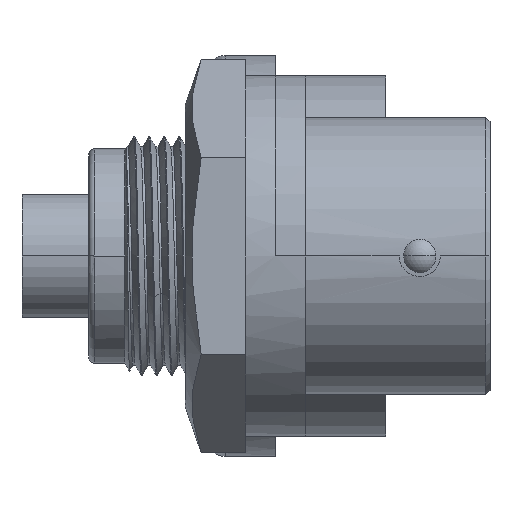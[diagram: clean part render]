
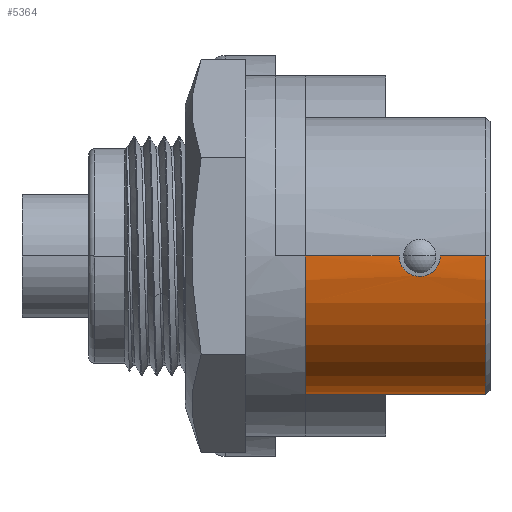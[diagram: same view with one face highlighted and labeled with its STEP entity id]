
A CAD part, front view. The second image highlights one B-rep face of the part: STEP entity #5364.
In plain terms, the highlighted cylindrical face has radius 6.9 mm (diameter 13.8 mm), a partial arc.
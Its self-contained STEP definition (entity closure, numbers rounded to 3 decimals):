
#1544=CARTESIAN_POINT('',(2.3,0.,0.));
#1545=DIRECTION('',(1.,0.,0.));
#1546=DIRECTION('',(0.,-1.,0.));
#1547=AXIS2_PLACEMENT_3D('',#1544,#1545,#1546);
#1549=DIRECTION('',(1.,0.,0.));
#1550=VECTOR('',#1549,7.4);
#1551=CARTESIAN_POINT('',(2.3,6.9,0.));
#1552=LINE('',#1551,#1550);
#1564=CARTESIAN_POINT('',(10.7,6.9,0.));
#1566=DIRECTION('',(1.,0.,0.));
#1567=VECTOR('',#1566,0.6);
#1568=CARTESIAN_POINT('',(10.7,6.9,0.));
#1569=LINE('',#1568,#1567);
#1570=DIRECTION('',(1.,0.,0.));
#1571=VECTOR('',#1570,2.275);
#1572=CARTESIAN_POINT('',(9.025,-6.9,0.));
#1573=LINE('',#1572,#1571);
#1574=CARTESIAN_POINT('',(10.7,6.9,0.));
#1575=CARTESIAN_POINT('',(10.7,6.9,
-0.06));
#1576=CARTESIAN_POINT('',(10.68,6.899,
-0.173));
#1577=CARTESIAN_POINT('',(10.59,6.893,
-0.329));
#1578=CARTESIAN_POINT('',(10.458,6.886,
-0.44));
#1579=CARTESIAN_POINT('',(10.29,6.882,
-0.503));
#1580=CARTESIAN_POINT('',(10.111,6.882,
-0.503));
#1581=CARTESIAN_POINT('',(9.945,6.886,
-0.442));
#1582=CARTESIAN_POINT('',(9.81,6.893,
-0.329));
#1583=CARTESIAN_POINT('',(9.721,6.898,
-0.174));
#1584=CARTESIAN_POINT('',(9.7,6.9,-0.061));
#1585=CARTESIAN_POINT('',(9.7,6.9,0.));
#1587=DIRECTION('',(1.,0.,0.));
#1588=VECTOR('',#1587,4.675);
#1589=CARTESIAN_POINT('',(2.3,-6.9,0.));
#1590=LINE('',#1589,#1588);
#1591=CARTESIAN_POINT('',(6.975,-6.9,0.));
#1592=CARTESIAN_POINT('',(6.975,-6.9,-0.099));
#1593=CARTESIAN_POINT('',(7.002,-6.896,
-0.288));
#1594=CARTESIAN_POINT('',(7.125,-6.879,
-0.561));
#1595=CARTESIAN_POINT('',(7.316,-6.857,
-0.781));
#1596=CARTESIAN_POINT('',(7.561,-6.836,
-0.942));
#1597=CARTESIAN_POINT('',(7.853,-6.823,
-1.029));
#1598=CARTESIAN_POINT('',(8.149,-6.823,
-1.028));
#1599=CARTESIAN_POINT('',(8.437,-6.836,
-0.943));
#1600=CARTESIAN_POINT('',(8.678,-6.856,
-0.786));
#1601=CARTESIAN_POINT('',(8.868,-6.878,
-0.572));
#1602=CARTESIAN_POINT('',(8.996,-6.896,
-0.296));
#1603=CARTESIAN_POINT('',(9.024,-6.9,-0.102));
#1604=CARTESIAN_POINT('',(9.025,-6.9,0.));
#1606=CARTESIAN_POINT('',(11.3,0.,
0.));
#1607=DIRECTION('',(-1.,0.,0.));
#1608=DIRECTION('',(0.,1.,0.));
#1609=AXIS2_PLACEMENT_3D('',#1606,#1607,#1608);
#1611=CARTESIAN_POINT('',(11.3,0.,
0.));
#1612=DIRECTION('',(-1.,0.,0.));
#1613=DIRECTION('',(0.,0.,-1.));
#1614=AXIS2_PLACEMENT_3D('',#1611,#1612,#1613);
#1756=CARTESIAN_POINT('',(7.2,3.45,-5.976));
#1757=CARTESIAN_POINT('',(7.2,3.372,-6.02));
#1758=CARTESIAN_POINT('',(7.226,3.223,-6.103));
#1759=CARTESIAN_POINT('',(7.342,3.007,-6.211));
#1760=CARTESIAN_POINT('',(7.53,2.831,-6.293));
#1761=CARTESIAN_POINT('',(7.762,2.723,-6.34));
#1762=CARTESIAN_POINT('',(8.013,2.688,-6.355));
#1763=CARTESIAN_POINT('',(8.26,2.73,-6.337));
#1764=CARTESIAN_POINT('',(8.484,2.842,-6.288));
#1765=CARTESIAN_POINT('',(8.661,3.012,-6.209));
#1766=CARTESIAN_POINT('',(8.773,3.222,-6.103));
#1767=CARTESIAN_POINT('',(8.8,3.372,-6.021));
#1768=CARTESIAN_POINT('',(8.8,3.45,-5.976));
#1775=CARTESIAN_POINT('',(8.8,3.45,-5.976));
#1776=CARTESIAN_POINT('',(8.8,3.49,-5.952));
#1777=CARTESIAN_POINT('',(8.793,3.57,-5.905));
#1778=CARTESIAN_POINT('',(8.759,3.687,-5.833));
#1779=CARTESIAN_POINT('',(8.704,3.796,-5.763));
#1780=CARTESIAN_POINT('',(8.63,3.892,-5.698));
#1781=CARTESIAN_POINT('',(8.544,3.971,-5.643));
#1782=CARTESIAN_POINT('',(8.453,4.032,-5.599));
#1783=CARTESIAN_POINT('',(8.366,4.076,-5.568));
#1784=CARTESIAN_POINT('',(8.283,4.106,-5.545));
#1785=CARTESIAN_POINT('',(8.201,4.128,-5.529));
#1786=CARTESIAN_POINT('',(8.121,4.142,-5.519));
#1787=CARTESIAN_POINT('',(8.04,4.149,-5.513));
#1788=CARTESIAN_POINT('',(7.958,4.149,-5.514));
#1789=CARTESIAN_POINT('',(7.878,4.142,-5.519));
#1790=CARTESIAN_POINT('',(7.797,4.128,-5.529));
#1791=CARTESIAN_POINT('',(7.717,4.106,-5.545));
#1792=CARTESIAN_POINT('',(7.633,4.075,-5.568));
#1793=CARTESIAN_POINT('',(7.545,4.031,-5.6));
#1794=CARTESIAN_POINT('',(7.456,3.971,-5.643));
#1795=CARTESIAN_POINT('',(7.369,3.891,-5.699));
#1796=CARTESIAN_POINT('',(7.296,3.795,-5.763));
#1797=CARTESIAN_POINT('',(7.241,3.687,-5.833));
#1798=CARTESIAN_POINT('',(7.207,3.57,-5.905));
#1799=CARTESIAN_POINT('',(7.2,3.491,-5.952));
#1800=CARTESIAN_POINT('',(7.2,3.45,-5.976));
#2996=CARTESIAN_POINT('',(2.3,6.9,0.));
#2997=CARTESIAN_POINT('',(2.3,-6.9,0.));
#2998=VERTEX_POINT('',#2996);
#2999=VERTEX_POINT('',#2997);
#3000=CARTESIAN_POINT('',(9.025,-6.9,0.));
#3001=CARTESIAN_POINT('',(11.3,-6.9,
0.));
#3002=VERTEX_POINT('',#3000);
#3003=VERTEX_POINT('',#3001);
#3004=VERTEX_POINT('',#1591);
#3005=CARTESIAN_POINT('',(9.7,6.9,0.));
#3006=VERTEX_POINT('',#3005);
#3007=VERTEX_POINT('',#1564);
#3008=CARTESIAN_POINT('',(11.3,6.9,
0.));
#3009=VERTEX_POINT('',#3008);
#3016=CARTESIAN_POINT('',(11.3,0.,
-6.9));
#3017=VERTEX_POINT('',#3016);
#3018=VERTEX_POINT('',#1756);
#3019=VERTEX_POINT('',#1768);
#5339=CARTESIAN_POINT('',(-9.5,0.,0.));
#5340=DIRECTION('',(1.,0.,0.));
#5341=DIRECTION('',(0.,-1.,0.));
#5342=AXIS2_PLACEMENT_3D('',#5339,#5340,#5341);
#5343=CYLINDRICAL_SURFACE('',#5342,6.9);
#5344=ORIENTED_EDGE('',*,*,#5307,.T.);
#5346=ORIENTED_EDGE('',*,*,#5345,.F.);
#5348=ORIENTED_EDGE('',*,*,#5347,.F.);
#5349=ORIENTED_EDGE('',*,*,#5318,.F.);
#5351=ORIENTED_EDGE('',*,*,#5350,.T.);
#5352=ORIENTED_EDGE('',*,*,#5314,.F.);
#5353=ORIENTED_EDGE('',*,*,#5297,.F.);
#5354=ORIENTED_EDGE('',*,*,#5311,.T.);
#5355=ORIENTED_EDGE('',*,*,#5309,.T.);
#5356=EDGE_LOOP('',(#5344,#5346,#5348,#5349,#5351,#5352,#5353,#5354,#5355));
#5357=FACE_OUTER_BOUND('',#5356,.F.);
#5359=ORIENTED_EDGE('',*,*,#5358,.F.);
#5361=ORIENTED_EDGE('',*,*,#5360,.F.);
#5362=EDGE_LOOP('',(#5359,#5361));
#5363=FACE_BOUND('',#5362,.F.);
#5364=ADVANCED_FACE('',(#5357,#5363),#5343,.T.);
#1548=CIRCLE('',#1547,6.9);
#1586=B_SPLINE_CURVE_WITH_KNOTS('',3,(#1574,#1575,#1576,#1577,#1578,#1579,#1580,
#1581,#1582,#1583,#1584,#1585),.UNSPECIFIED.,.F.,.F.,(4,1,1,1,1,1,1,1,1,4),
(0.,0.111,0.222,0.333,0.444,
0.556,0.667,0.778,0.889,1.),
.UNSPECIFIED.);
#1605=B_SPLINE_CURVE_WITH_KNOTS('',3,(#1591,#1592,#1593,#1594,#1595,#1596,#1597,
#1598,#1599,#1600,#1601,#1602,#1603,#1604),.UNSPECIFIED.,.F.,.F.,(4,1,1,1,1,1,1,
1,1,1,1,4),(0.,0.091,0.182,0.273,
0.364,0.455,0.545,0.636,
0.727,0.818,0.909,1.),.UNSPECIFIED.);
#1610=CIRCLE('',#1609,6.9);
#1615=CIRCLE('',#1614,6.9);
#1769=B_SPLINE_CURVE_WITH_KNOTS('',3,(#1756,#1757,#1758,#1759,#1760,#1761,#1762,
#1763,#1764,#1765,#1766,#1767,#1768),.UNSPECIFIED.,.F.,.F.,(4,1,1,1,1,1,1,1,1,1,
4),(0.,0.1,0.2,0.3,0.4,0.5,0.6,0.7,0.8,0.9,1.),
.UNSPECIFIED.);
#1801=B_SPLINE_CURVE_WITH_KNOTS('',3,(#1775,#1776,#1777,#1778,#1779,#1780,#1781,
#1782,#1783,#1784,#1785,#1786,#1787,#1788,#1789,#1790,#1791,#1792,#1793,#1794,
#1795,#1796,#1797,#1798,#1799,#1800),.UNSPECIFIED.,.F.,.F.,(4,1,1,1,1,1,1,1,1,1,
1,1,1,1,1,1,1,1,1,1,1,1,1,4),(0.,0.043,0.087,
0.13,0.174,0.217,0.261,
0.304,0.348,0.391,0.435,
0.478,0.522,0.565,0.609,
0.652,0.696,0.739,0.783,
0.826,0.87,0.913,0.957,1.),
.UNSPECIFIED.);
#5297=EDGE_CURVE('',#2999,#2998,#1548,.T.);
#5307=EDGE_CURVE('',#3002,#3003,#1573,.T.);
#5309=EDGE_CURVE('',#3004,#3002,#1605,.T.);
#5311=EDGE_CURVE('',#2999,#3004,#1590,.T.);
#5314=EDGE_CURVE('',#2998,#3006,#1552,.T.);
#5318=EDGE_CURVE('',#3007,#3009,#1569,.T.);
#5345=EDGE_CURVE('',#3017,#3003,#1615,.T.);
#5347=EDGE_CURVE('',#3009,#3017,#1610,.T.);
#5350=EDGE_CURVE('',#3007,#3006,#1586,.T.);
#5358=EDGE_CURVE('',#3018,#3019,#1769,.T.);
#5360=EDGE_CURVE('',#3019,#3018,#1801,.T.);
